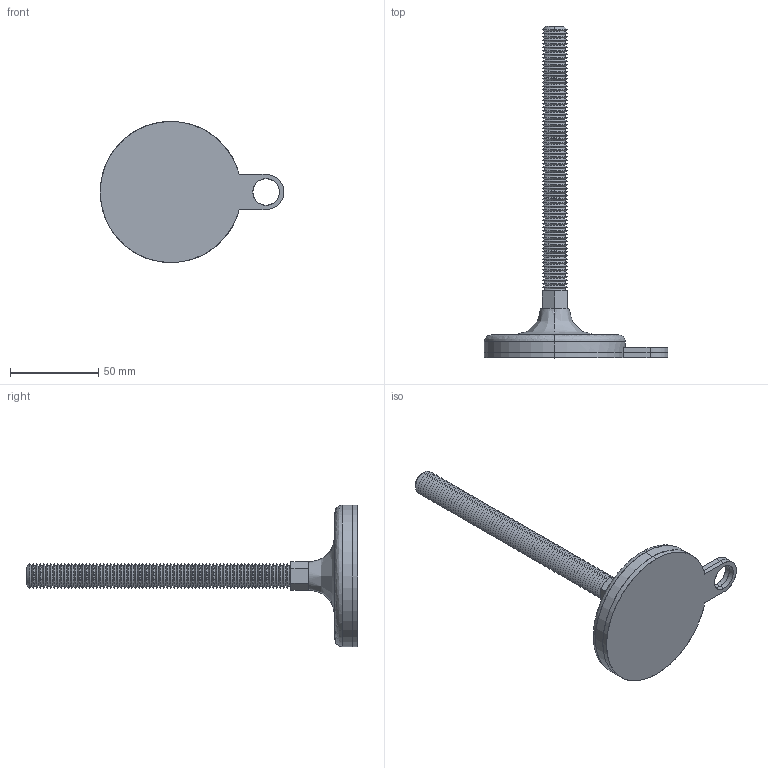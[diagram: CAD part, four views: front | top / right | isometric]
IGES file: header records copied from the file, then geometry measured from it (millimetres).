
Start section: SolidWorks IGES file using analytic representation for surfaces
Global section: file name: C:\Users\liam_\OneDrive\Documents\WORK\Work for WixRoyd\Job Files\J-00026 - Matt Davis CAD - 20191124\04. CAD Drawings\Wixroyd20191124\34704_v2\34704_v2_20191128_IGES\34704.W1402.igs; native system: SolidWorks 2017; preprocessor: SolidWorks 2017; author: liam_; date: 191128.202425; units: millimetre
Bounding box: 104 x 188 x 80 mm (x, y, z)
Surface area: 36998.1 mm2 (no closed solid volume)
Topology: 0 solids, 0 shells, 347 faces, 2022 edges, 2022 vertices
Faces by surface type: revolution 309, bspline 38
